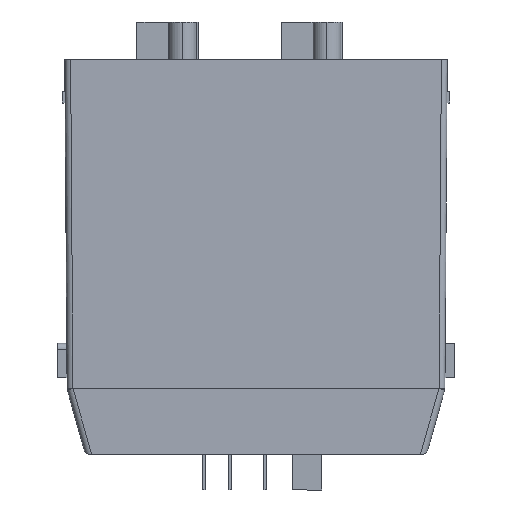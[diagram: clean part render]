
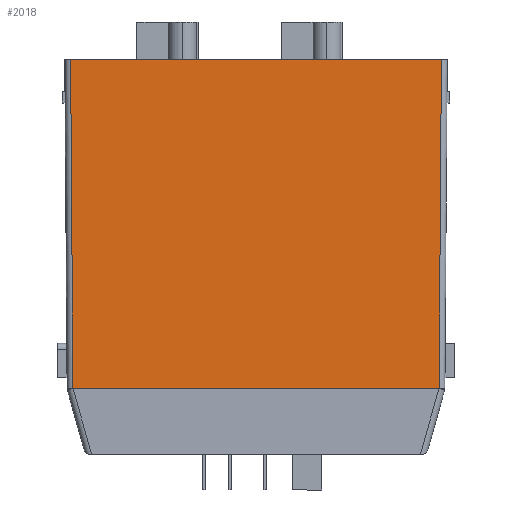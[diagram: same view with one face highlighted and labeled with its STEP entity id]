
A CAD part, left-side view. The second image highlights one B-rep face of the part: STEP entity #2018.
In plain terms, the highlighted planar face has unit normal (-1, 0, 0.004).
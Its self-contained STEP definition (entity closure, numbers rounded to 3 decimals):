
#140 = CARTESIAN_POINT ( 'NONE',  ( 0.206, 2.253, 73.219 ) ) ;
#187 = EDGE_CURVE ( 'NONE', #3136, #4690, #5805, .T. ) ;
#197 = CARTESIAN_POINT ( 'NONE',  ( 0.208, 65.75, 73.7 ) ) ;
#261 = PLANE ( 'NONE',  #4880 ) ;
#459 = VERTEX_POINT ( 'NONE', #2186 ) ;
#580 = ORIENTED_EDGE ( 'NONE', *, *, #3984, .T. ) ;
#1182 = CARTESIAN_POINT ( 'NONE',  ( 0., 65.35, 17.451 ) ) ;
#1269 = LINE ( 'NONE', #3112, #4272 ) ;
#1574 = DIRECTION ( 'NONE',  ( -0.004, 0., -1. ) ) ;
#2018 = ADVANCED_FACE ( 'NONE', ( #4341 ), #261, .F. ) ;
#2039 = VECTOR ( 'NONE', #5542, 1000. ) ;
#2093 = EDGE_LOOP ( 'NONE', ( #580, #3145, #5153, #4427 ) ) ;
#2152 = VECTOR ( 'NONE', #2304, 1000. ) ;
#2186 = CARTESIAN_POINT ( 'NONE',  ( 0.208, 2.25, 73.7 ) ) ;
#2289 = DIRECTION ( 'NONE',  ( 0., -1., 0. ) ) ;
#2304 = DIRECTION ( 'NONE',  ( -0.004, -0.007, -1. ) ) ;
#2794 = EDGE_CURVE ( 'NONE', #5612, #459, #1269, .T. ) ;
#2954 = VECTOR ( 'NONE', #3506, 1000. ) ;
#3112 = CARTESIAN_POINT ( 'NONE',  ( 0.208, 70., 73.7 ) ) ;
#3136 = VERTEX_POINT ( 'NONE', #3620 ) ;
#3145 = ORIENTED_EDGE ( 'NONE', *, *, #187, .F. ) ;
#3506 = DIRECTION ( 'NONE',  ( 0., 1., 0. ) ) ;
#3620 = CARTESIAN_POINT ( 'NONE',  ( 0., 2.65, 17.451 ) ) ;
#3984 = EDGE_CURVE ( 'NONE', #5612, #4690, #4578, .T. ) ;
#4184 = LINE ( 'NONE', #140, #2039 ) ;
#4209 = EDGE_CURVE ( 'NONE', #3136, #459, #4184, .T. ) ;
#4272 = VECTOR ( 'NONE', #2289, 1000. ) ;
#4341 = FACE_OUTER_BOUND ( 'NONE', #2093, .T. ) ;
#4427 = ORIENTED_EDGE ( 'NONE', *, *, #2794, .F. ) ;
#4490 = CARTESIAN_POINT ( 'NONE',  ( 0.208, 65.75, 73.73 ) ) ;
#4578 = LINE ( 'NONE', #4490, #2152 ) ;
#4590 = CARTESIAN_POINT ( 'NONE',  ( 0., 0., 17.451 ) ) ;
#4690 = VERTEX_POINT ( 'NONE', #1182 ) ;
#4729 = DIRECTION ( 'NONE',  ( 1., 0., -0.004 ) ) ;
#4880 = AXIS2_PLACEMENT_3D ( 'NONE', #5691, #4729, #1574 ) ;
#5153 = ORIENTED_EDGE ( 'NONE', *, *, #4209, .T. ) ;
#5542 = DIRECTION ( 'NONE',  ( 0.004, -0.007, 1. ) ) ;
#5612 = VERTEX_POINT ( 'NONE', #197 ) ;
#5691 = CARTESIAN_POINT ( 'NONE',  ( 0.208, 70., 73.7 ) ) ;
#5805 = LINE ( 'NONE', #4590, #2954 ) ;
